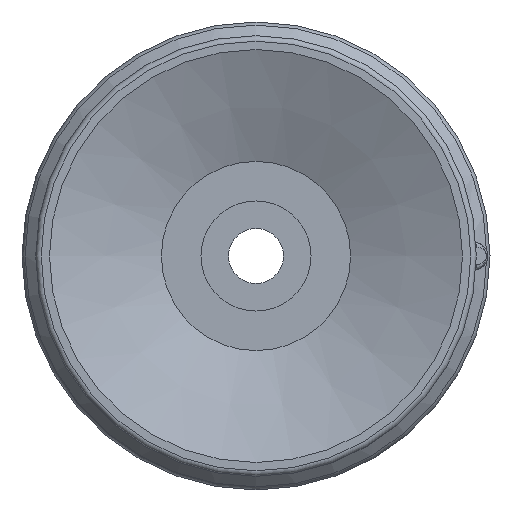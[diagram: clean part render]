
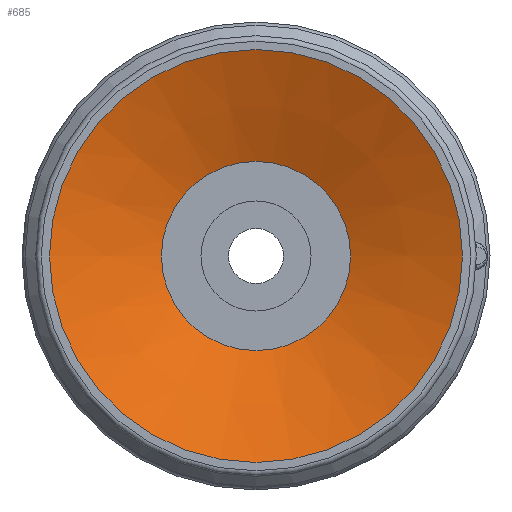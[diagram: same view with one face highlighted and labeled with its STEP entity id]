
A CAD part, front view. The second image highlights one B-rep face of the part: STEP entity #685.
In plain terms, the highlighted conical face has half-angle 67.5 degrees and reference radius 3.437 mm.
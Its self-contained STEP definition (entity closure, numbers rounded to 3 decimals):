
#685=ADVANCED_FACE('',(#945,#946),#947,.F.);
#945=FACE_BOUND('',#2269,.T.);
#946=FACE_OUTER_BOUND('',#2270,.T.);
#947=CONICAL_SURFACE('',#2271,3.437,1.178);
#2269=EDGE_LOOP('',(#2928));
#2270=EDGE_LOOP('',(#2929));
#2271=AXIS2_PLACEMENT_3D('',#2930,#2931,#2932);
#2928=ORIENTED_EDGE('',*,*,#3275,.F.);
#2929=ORIENTED_EDGE('',*,*,#3265,.T.);
#2930=CARTESIAN_POINT('',(0.0,0.0,1.683));
#2931=DIRECTION('',(0.0,0.,-1.0));
#2932=DIRECTION('',(0.0,1.0,0.));
#3265=EDGE_CURVE('',#3577,#3577,#3578,.T.);
#3275=EDGE_CURVE('',#3597,#3597,#3598,.T.);
#3577=VERTEX_POINT('',#4446);
#3578=CIRCLE('',#4447,7.5);
#3597=VERTEX_POINT('',#4466);
#3598=CIRCLE('',#4467,3.437);
#4446=CARTESIAN_POINT('',(-7.5,0.0,0.));
#4447=AXIS2_PLACEMENT_3D('',#4770,#4771,#4772);
#4466=CARTESIAN_POINT('',(-3.437,0.0,1.683));
#4467=AXIS2_PLACEMENT_3D('',#4800,#4801,#4802);
#4770=CARTESIAN_POINT('',(0.0,0.0,0.));
#4771=DIRECTION('',(0.0,0.,-1.0));
#4772=DIRECTION('',(0.0,1.0,0.));
#4800=CARTESIAN_POINT('',(0.0,0.0,1.683));
#4801=DIRECTION('',(0.0,0.,-1.0));
#4802=DIRECTION('',(0.0,1.0,0.));
